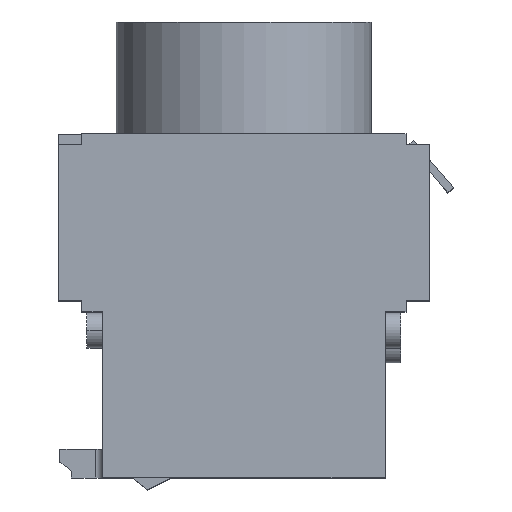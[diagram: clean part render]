
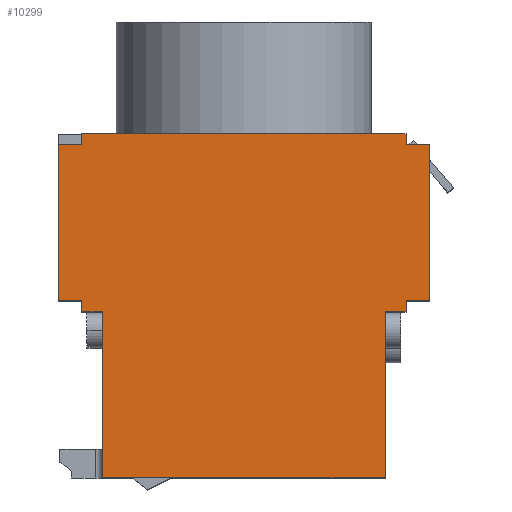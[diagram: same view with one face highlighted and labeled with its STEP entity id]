
A CAD part, top view. The second image highlights one B-rep face of the part: STEP entity #10299.
In plain terms, the highlighted planar face has unit normal (0, 0, 1).
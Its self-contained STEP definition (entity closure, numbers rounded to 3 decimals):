
#1345 = LINE ( 'NONE', #1777, #1364 ) ;
#1355 = LINE ( 'NONE', #1791, #1358 ) ;
#1357 = LINE ( 'NONE', #1793, #1360 ) ;
#1358 = VECTOR ( 'NONE', #1792, 1000. ) ;
#1359 = LINE ( 'NONE', #1795, #1362 ) ;
#1360 = VECTOR ( 'NONE', #1794, 1000. ) ;
#1362 = VECTOR ( 'NONE', #1797, 1000. ) ;
#1363 = LINE ( 'NONE', #1799, #1366 ) ;
#1364 = VECTOR ( 'NONE', #1798, 1000. ) ;
#1365 = LINE ( 'NONE', #1801, #1368 ) ;
#1366 = VECTOR ( 'NONE', #1800, 1000. ) ;
#1367 = LINE ( 'NONE', #1803, #1370 ) ;
#1368 = VECTOR ( 'NONE', #1802, 1000. ) ;
#1369 = LINE ( 'NONE', #1805, #1372 ) ;
#1370 = VECTOR ( 'NONE', #1804, 1000. ) ;
#1371 = LINE ( 'NONE', #1807, #1374 ) ;
#1372 = VECTOR ( 'NONE', #1806, 1000. ) ;
#1373 = LINE ( 'NONE', #1809, #1376 ) ;
#1374 = VECTOR ( 'NONE', #1808, 1000. ) ;
#1375 = LINE ( 'NONE', #1811, #1378 ) ;
#1376 = VECTOR ( 'NONE', #1810, 1000. ) ;
#1377 = LINE ( 'NONE', #1813, #1380 ) ;
#1378 = VECTOR ( 'NONE', #1812, 1000. ) ;
#1379 = LINE ( 'NONE', #1815, #1382 ) ;
#1380 = VECTOR ( 'NONE', #1814, 1000. ) ;
#1381 = LINE ( 'NONE', #1817, #1384 ) ;
#1382 = VECTOR ( 'NONE', #1816, 1000. ) ;
#1384 = VECTOR ( 'NONE', #1818, 1000. ) ;
#1777 = CARTESIAN_POINT ( 'NONE',  ( 21., 44.5, 45. ) ) ;
#1791 = CARTESIAN_POINT ( 'NONE',  ( 24., 44.5, 45. ) ) ;
#1792 = DIRECTION ( 'NONE',  ( 0., 1., 0. ) ) ;
#1793 = CARTESIAN_POINT ( 'NONE',  ( 21., 22.9, 45. ) ) ;
#1794 = DIRECTION ( 'NONE',  ( 1., 0., 0. ) ) ;
#1795 = CARTESIAN_POINT ( 'NONE',  ( 21., 43.1, 45. ) ) ;
#1797 = DIRECTION ( 'NONE',  ( 1., 0., 0. ) ) ;
#1798 = DIRECTION ( 'NONE',  ( 0., 1., 0. ) ) ;
#1799 = CARTESIAN_POINT ( 'NONE',  ( -21., 44.5, 45. ) ) ;
#1800 = DIRECTION ( 'NONE',  ( 0., 1., 0. ) ) ;
#1801 = CARTESIAN_POINT ( 'NONE',  ( -21., 43.1, 45. ) ) ;
#1802 = DIRECTION ( 'NONE',  ( -1., 0., 0. ) ) ;
#1803 = CARTESIAN_POINT ( 'NONE',  ( -24., 21.5, 45. ) ) ;
#1804 = DIRECTION ( 'NONE',  ( 0., -1., 0. ) ) ;
#1805 = CARTESIAN_POINT ( 'NONE',  ( -21., 22.9, 45. ) ) ;
#1806 = DIRECTION ( 'NONE',  ( -1., 0., 0. ) ) ;
#1807 = CARTESIAN_POINT ( 'NONE',  ( -21., 21.5, 45. ) ) ;
#1808 = DIRECTION ( 'NONE',  ( 0., 1., 0. ) ) ;
#1809 = CARTESIAN_POINT ( 'NONE',  ( -18.3, 21.5, 45. ) ) ;
#1810 = DIRECTION ( 'NONE',  ( 1., 0., 0. ) ) ;
#1811 = CARTESIAN_POINT ( 'NONE',  ( -18.3, 0., 45. ) ) ;
#1812 = DIRECTION ( 'NONE',  ( 0., -1., 0. ) ) ;
#1813 = CARTESIAN_POINT ( 'NONE',  ( 18.3, 0., 45. ) ) ;
#1814 = DIRECTION ( 'NONE',  ( 1., 0., 0. ) ) ;
#1815 = CARTESIAN_POINT ( 'NONE',  ( 24., 21.5, 45. ) ) ;
#1816 = DIRECTION ( 'NONE',  ( 1., 0., 0. ) ) ;
#1817 = CARTESIAN_POINT ( 'NONE',  ( 21., 21.5, 45. ) ) ;
#1818 = DIRECTION ( 'NONE',  ( 0., 1., 0. ) ) ;
#2314 = CARTESIAN_POINT ( 'NONE',  ( -21., 44.5, 45. ) ) ;
#2330 = CARTESIAN_POINT ( 'NONE',  ( 18.3, 0., 45. ) ) ;
#2374 = CARTESIAN_POINT ( 'NONE',  ( -21., 22.9, 45. ) ) ;
#2383 = CARTESIAN_POINT ( 'NONE',  ( 21., 43.1, 45. ) ) ;
#2405 = CARTESIAN_POINT ( 'NONE',  ( -24., 43.1, 45. ) ) ;
#2418 = CARTESIAN_POINT ( 'NONE',  ( -21., 21.5, 45. ) ) ;
#2428 = CARTESIAN_POINT ( 'NONE',  ( 21., 44.5, 45. ) ) ;
#2442 = CARTESIAN_POINT ( 'NONE',  ( -18.3, 21.5, 45. ) ) ;
#2444 = CARTESIAN_POINT ( 'NONE',  ( -18.3, 0., 45. ) ) ;
#2497 = CARTESIAN_POINT ( 'NONE',  ( 24., 22.9, 45. ) ) ;
#2533 = CARTESIAN_POINT ( 'NONE',  ( -24., 22.9, 45. ) ) ;
#2539 = CARTESIAN_POINT ( 'NONE',  ( 21., 22.9, 45. ) ) ;
#2544 = CARTESIAN_POINT ( 'NONE',  ( 21., 21.5, 45. ) ) ;
#2558 = CARTESIAN_POINT ( 'NONE',  ( 24., 43.1, 45. ) ) ;
#5321 = VERTEX_POINT ( 'NONE', #6091 ) ;
#5791 = LINE ( 'NONE', #6160, #5800 ) ;
#5800 = VECTOR ( 'NONE', #6169, 1000. ) ;
#5835 = LINE ( 'NONE', #6212, #5852 ) ;
#5852 = VECTOR ( 'NONE', #6229, 1000. ) ;
#6091 = CARTESIAN_POINT ( 'NONE',  ( 18.3, 21.5, 45. ) ) ;
#6160 = CARTESIAN_POINT ( 'NONE',  ( -24., 44.5, 45. ) ) ;
#6169 = DIRECTION ( 'NONE',  ( -1., 0., 0. ) ) ;
#6212 = CARTESIAN_POINT ( 'NONE',  ( 18.3, 21.5, 45. ) ) ;
#6229 = DIRECTION ( 'NONE',  ( 0., 1., 0. ) ) ;
#6952 = FACE_OUTER_BOUND ( 'NONE', #8905, .T. ) ;
#7070 = CARTESIAN_POINT ( 'NONE',  ( -21., 43.1, 45. ) ) ;
#7720 = AXIS2_PLACEMENT_3D ( 'NONE', #8012, #8017, #8018 ) ;
#8012 = CARTESIAN_POINT ( 'NONE',  ( 0., 0., 45. ) ) ;
#8015 = PLANE ( 'NONE',  #7720 ) ;
#8017 = DIRECTION ( 'NONE',  ( 0., 0., -1. ) ) ;
#8018 = DIRECTION ( 'NONE',  ( -1., 0., 0. ) ) ;
#8319 = EDGE_CURVE ( 'NONE', #9760, #9653, #5791, .T. ) ;
#8347 = EDGE_CURVE ( 'NONE', #9662, #5321, #5835, .T. ) ;
#8572 = ORIENTED_EDGE ( 'NONE', *, *, #8881, .T. ) ;
#8573 = ORIENTED_EDGE ( 'NONE', *, *, #8879, .T. ) ;
#8574 = ORIENTED_EDGE ( 'NONE', *, *, #8883, .F. ) ;
#8575 = ORIENTED_EDGE ( 'NONE', *, *, #8885, .T. ) ;
#8576 = ORIENTED_EDGE ( 'NONE', *, *, #8319, .T. ) ;
#8577 = ORIENTED_EDGE ( 'NONE', *, *, #8887, .F. ) ;
#8578 = ORIENTED_EDGE ( 'NONE', *, *, #8889, .T. ) ;
#8579 = ORIENTED_EDGE ( 'NONE', *, *, #8891, .T. ) ;
#8580 = ORIENTED_EDGE ( 'NONE', *, *, #8894, .F. ) ;
#8581 = ORIENTED_EDGE ( 'NONE', *, *, #8896, .F. ) ;
#8582 = ORIENTED_EDGE ( 'NONE', *, *, #8898, .T. ) ;
#8583 = ORIENTED_EDGE ( 'NONE', *, *, #8900, .T. ) ;
#8584 = ORIENTED_EDGE ( 'NONE', *, *, #8902, .T. ) ;
#8585 = ORIENTED_EDGE ( 'NONE', *, *, #8347, .T. ) ;
#8586 = ORIENTED_EDGE ( 'NONE', *, *, #8904, .T. ) ;
#8587 = ORIENTED_EDGE ( 'NONE', *, *, #8906, .T. ) ;
#8879 = EDGE_CURVE ( 'NONE', #9829, #9890, #1355, .T. ) ;
#8881 = EDGE_CURVE ( 'NONE', #9871, #9829, #1357, .T. ) ;
#8883 = EDGE_CURVE ( 'NONE', #9715, #9890, #1359, .T. ) ;
#8885 = EDGE_CURVE ( 'NONE', #9715, #9760, #1345, .T. ) ;
#8887 = EDGE_CURVE ( 'NONE', #9919, #9653, #1363, .T. ) ;
#8889 = EDGE_CURVE ( 'NONE', #9919, #9737, #1365, .T. ) ;
#8891 = EDGE_CURVE ( 'NONE', #9737, #9865, #1367, .T. ) ;
#8894 = EDGE_CURVE ( 'NONE', #9706, #9865, #1369, .T. ) ;
#8896 = EDGE_CURVE ( 'NONE', #9750, #9706, #1371, .T. ) ;
#8898 = EDGE_CURVE ( 'NONE', #9750, #9774, #1373, .T. ) ;
#8900 = EDGE_CURVE ( 'NONE', #9774, #9776, #1375, .T. ) ;
#8902 = EDGE_CURVE ( 'NONE', #9776, #9662, #1377, .T. ) ;
#8904 = EDGE_CURVE ( 'NONE', #5321, #9876, #1379, .T. ) ;
#8905 = EDGE_LOOP ( 'NONE', ( #8572, #8573, #8574, #8575, #8576, #8577, #8578, #8579, #8580, #8581, #8582, #8583, #8584, #8585, #8586, #8587 ) ) ;
#8906 = EDGE_CURVE ( 'NONE', #9876, #9871, #1381, .T. ) ;
#9653 = VERTEX_POINT ( 'NONE', #2314 ) ;
#9662 = VERTEX_POINT ( 'NONE', #2330 ) ;
#9706 = VERTEX_POINT ( 'NONE', #2374 ) ;
#9715 = VERTEX_POINT ( 'NONE', #2383 ) ;
#9737 = VERTEX_POINT ( 'NONE', #2405 ) ;
#9750 = VERTEX_POINT ( 'NONE', #2418 ) ;
#9760 = VERTEX_POINT ( 'NONE', #2428 ) ;
#9774 = VERTEX_POINT ( 'NONE', #2442 ) ;
#9776 = VERTEX_POINT ( 'NONE', #2444 ) ;
#9829 = VERTEX_POINT ( 'NONE', #2497 ) ;
#9865 = VERTEX_POINT ( 'NONE', #2533 ) ;
#9871 = VERTEX_POINT ( 'NONE', #2539 ) ;
#9876 = VERTEX_POINT ( 'NONE', #2544 ) ;
#9890 = VERTEX_POINT ( 'NONE', #2558 ) ;
#9919 = VERTEX_POINT ( 'NONE', #7070 ) ;
#10299 = ADVANCED_FACE ( 'NONE', ( #6952 ), #8015, .F. ) ;
